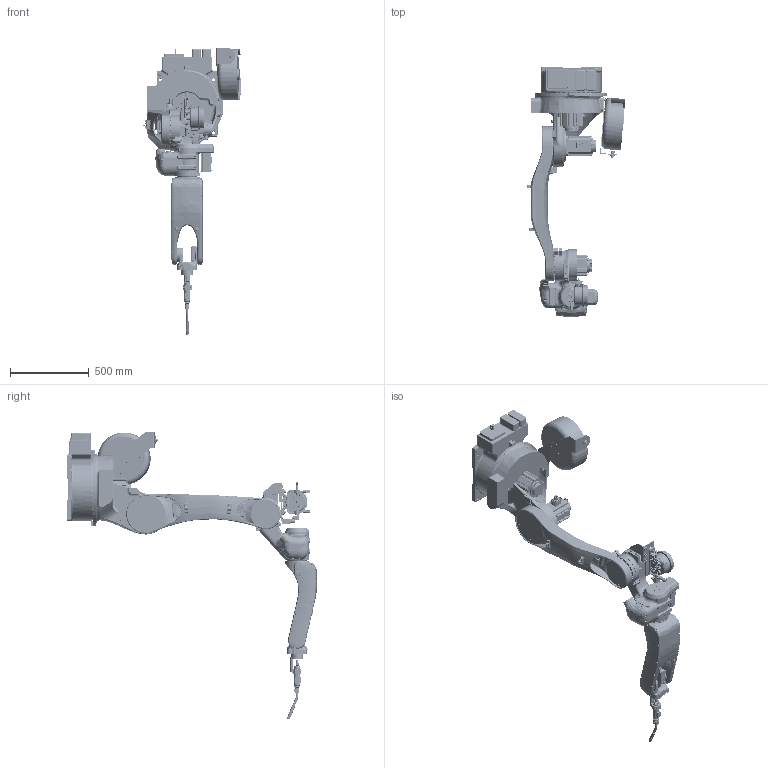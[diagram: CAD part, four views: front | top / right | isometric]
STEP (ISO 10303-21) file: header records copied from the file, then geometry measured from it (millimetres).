
FILE_DESCRIPTION (( 'STEP AP214' ), '1' );
FILE_NAME ('RH18-20 焊接版(外发内齿版).STEP', '2025-03-13T07:43:46', ( '' ), ( '' ), 'SwSTEP 2.0', 'SolidWorks 2021', '' );
FILE_SCHEMA (( 'AUTOMOTIVE_DESIGN' ));
Length unit declared in the file: millimetre
Products named in the file (10): CR1800 shell  冞佪儂郪璃; RH18-20 焊接版(外发内齿版); 笢諾350ァ濮爾Л; CR1800 shell 殈窒 ; CR1800 shell 勂窒; CR1800 shell 菁釱; CR1800 shell 湮旋; CR1400 shell  焊丝盘组件全; CR1800 shell 苤旋; CR1800 shell 紵窒
Assembly tree (9 placements, depth 2):
  RH18-20 焊接版(外发内齿版)
    CR1800 shell 殈窒 
    CR1800 shell 菁釱
    CR1800 shell 湮旋
    CR1800 shell 紵窒
    CR1800 shell 苤旋
    CR1800 shell 勂窒
    笢諾350ァ濮爾Л
    CR1800 shell  冞佪儂郪璃
    CR1400 shell  焊丝盘组件全
Bounding box: 626.68 x 1585 x 1824.86 mm (x, y, z)
Surface area: 5169243.3 mm2 (no closed solid volume)
Topology: 0 solids, 395 shells, 7541 faces, 23445 edges, 15612 vertices
Faces by surface type: cylinder 2660, plane 2147, bspline 1478, cone 669, torus 504, sphere 83
Entity records: 408543 total; most frequent: CARTESIAN_POINT 198954, ORIENTED_EDGE 39226, DIRECTION 38148, EDGE_CURVE 23185, VERTEX_POINT 15592, AXIS2_PLACEMENT_3D 14557, VECTOR 9034, LINE 9034
